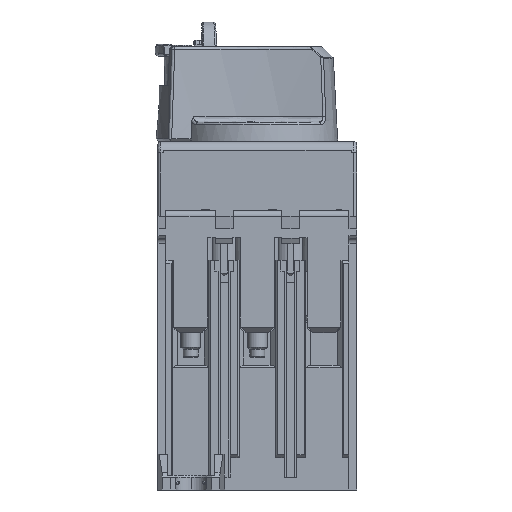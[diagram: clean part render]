
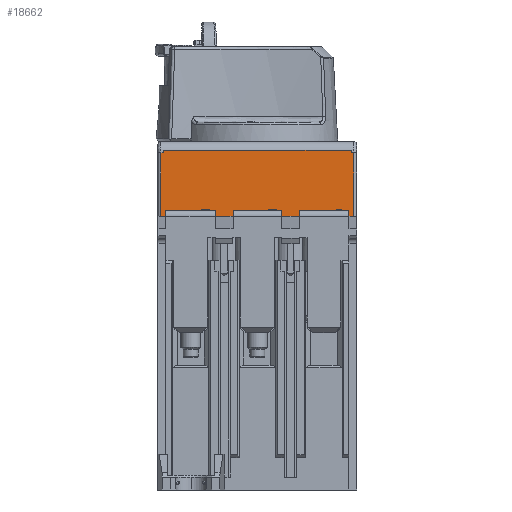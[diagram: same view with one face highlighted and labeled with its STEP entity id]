
A CAD part, left-side view. The second image highlights one B-rep face of the part: STEP entity #18662.
In plain terms, the highlighted planar face has unit normal (-1, 0, 0).
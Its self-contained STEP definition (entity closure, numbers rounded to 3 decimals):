
#840 = VECTOR ( 'NONE', #77803, 1000. ) ;
#1303 = CARTESIAN_POINT ( 'NONE',  ( -19.4, 261.429, 42.15 ) ) ;
#2594 = ORIENTED_EDGE ( 'NONE', *, *, #89539, .T. ) ;
#2887 = VERTEX_POINT ( 'NONE', #25174 ) ;
#3357 = LINE ( 'NONE', #77321, #72798 ) ;
#4456 = AXIS2_PLACEMENT_3D ( 'NONE', #12999, #74201, #51690 ) ;
#4516 = ORIENTED_EDGE ( 'NONE', *, *, #52850, .F. ) ;
#5831 = VECTOR ( 'NONE', #11500, 1000. ) ;
#5946 = CARTESIAN_POINT ( 'NONE',  ( -19.4, 269.775, 36.3 ) ) ;
#6111 = LINE ( 'NONE', #90278, #55612 ) ;
#7173 = VERTEX_POINT ( 'NONE', #92871 ) ;
#7191 = ORIENTED_EDGE ( 'NONE', *, *, #22659, .F. ) ;
#8201 = VECTOR ( 'NONE', #80288, 1000. ) ;
#8441 = DIRECTION ( 'NONE',  ( 0., 0., -1. ) ) ;
#8679 = LINE ( 'NONE', #58690, #13557 ) ;
#9398 = CARTESIAN_POINT ( 'NONE',  ( -19.4, 269.775, 37.8 ) ) ;
#10449 = VERTEX_POINT ( 'NONE', #94441 ) ;
#11500 = DIRECTION ( 'NONE',  ( 0., -1., 0. ) ) ;
#11541 = CARTESIAN_POINT ( 'NONE',  ( -19.4, 235.688, 56. ) ) ;
#11749 = VERTEX_POINT ( 'NONE', #69142 ) ;
#12820 = CARTESIAN_POINT ( 'NONE',  ( -19.4, 269.175, 43.8 ) ) ;
#12999 = CARTESIAN_POINT ( 'NONE',  ( -19.4, 235.688, 37.8 ) ) ;
#13100 = EDGE_CURVE ( 'NONE', #61467, #44654, #79415, .T. ) ;
#13552 = CARTESIAN_POINT ( 'NONE',  ( -19.4, 269.675, 42.15 ) ) ;
#13557 = VECTOR ( 'NONE', #30261, 1000. ) ;
#13968 = PLANE ( 'NONE',  #4456 ) ;
#14914 = VECTOR ( 'NONE', #23483, 1000. ) ;
#18576 = EDGE_CURVE ( 'NONE', #61101, #61467, #56111, .T. ) ;
#18662 = ADVANCED_FACE ( 'NONE', ( #65420 ), #13968, .F. ) ;
#20061 = VERTEX_POINT ( 'NONE', #30201 ) ;
#20115 = EDGE_CURVE ( 'NONE', #93538, #11749, #47285, .T. ) ;
#20542 = LINE ( 'NONE', #66582, #8201 ) ;
#22616 = EDGE_CURVE ( 'NONE', #70499, #89665, #3357, .T. ) ;
#22659 = EDGE_CURVE ( 'NONE', #70820, #2887, #56706, .T. ) ;
#23483 = DIRECTION ( 'NONE',  ( 0., -1., 0. ) ) ;
#24044 = EDGE_CURVE ( 'NONE', #86087, #42715, #8679, .T. ) ;
#25174 = CARTESIAN_POINT ( 'NONE',  ( -19.4, 269.175, 42.15 ) ) ;
#26805 = ORIENTED_EDGE ( 'NONE', *, *, #79138, .T. ) ;
#30201 = CARTESIAN_POINT ( 'NONE',  ( -19.4, 236.375, 42.15 ) ) ;
#30261 = DIRECTION ( 'NONE',  ( 0., 1., 0. ) ) ;
#30699 = CARTESIAN_POINT ( 'NONE',  ( -19.4, 270.275, 37.8 ) ) ;
#30812 = VECTOR ( 'NONE', #82625, 1000. ) ;
#30912 = VECTOR ( 'NONE', #8441, 1000. ) ;
#31285 = ORIENTED_EDGE ( 'NONE', *, *, #39760, .F. ) ;
#32056 = DIRECTION ( 'NONE',  ( 0., 0., 1. ) ) ;
#32161 = ORIENTED_EDGE ( 'NONE', *, *, #83870, .T. ) ;
#34365 = CARTESIAN_POINT ( 'NONE',  ( -19.4, 236.275, 42.15 ) ) ;
#34369 = DIRECTION ( 'NONE',  ( 0., 0., -1. ) ) ;
#35255 = CARTESIAN_POINT ( 'NONE',  ( -19.4, 269.775, 42.15 ) ) ;
#35596 = ORIENTED_EDGE ( 'NONE', *, *, #41129, .F. ) ;
#35764 = EDGE_CURVE ( 'NONE', #54108, #73118, #6111, .T. ) ;
#36271 = VECTOR ( 'NONE', #38199, 1000. ) ;
#36489 = ORIENTED_EDGE ( 'NONE', *, *, #64450, .T. ) ;
#38059 = LINE ( 'NONE', #30699, #30812 ) ;
#38199 = DIRECTION ( 'NONE',  ( 0., -1., 0. ) ) ;
#39413 = LINE ( 'NONE', #48696, #76623 ) ;
#39748 = EDGE_CURVE ( 'NONE', #10449, #7173, #55641, .T. ) ;
#39760 = EDGE_CURVE ( 'NONE', #42193, #93538, #48307, .T. ) ;
#39946 = DIRECTION ( 'NONE',  ( 0., 1., 0. ) ) ;
#40964 = CARTESIAN_POINT ( 'NONE',  ( -19.4, 235.775, 37.8 ) ) ;
#41034 = CARTESIAN_POINT ( 'NONE',  ( -19.4, 235.775, 36.3 ) ) ;
#41129 = EDGE_CURVE ( 'NONE', #7173, #61101, #39413, .T. ) ;
#42193 = VERTEX_POINT ( 'NONE', #42975 ) ;
#42715 = VERTEX_POINT ( 'NONE', #67316 ) ;
#42821 = CARTESIAN_POINT ( 'NONE',  ( -19.4, 236.875, 42.15 ) ) ;
#42975 = CARTESIAN_POINT ( 'NONE',  ( -19.4, 235.775, 55.5 ) ) ;
#44594 = LINE ( 'NONE', #88661, #36271 ) ;
#44654 = VERTEX_POINT ( 'NONE', #47048 ) ;
#46477 = LINE ( 'NONE', #90560, #14914 ) ;
#46867 = DIRECTION ( 'NONE',  ( 0., -1., 0. ) ) ;
#47048 = CARTESIAN_POINT ( 'NONE',  ( -19.4, 236.275, 55.5 ) ) ;
#47285 = LINE ( 'NONE', #62958, #87301 ) ;
#47365 = ORIENTED_EDGE ( 'NONE', *, *, #18576, .F. ) ;
#47679 = ORIENTED_EDGE ( 'NONE', *, *, #57814, .F. ) ;
#47764 = CARTESIAN_POINT ( 'NONE',  ( -19.4, 235.688, 55.5 ) ) ;
#47808 = DIRECTION ( 'NONE',  ( 0., -1., 0. ) ) ;
#48307 = LINE ( 'NONE', #40964, #73583 ) ;
#48696 = CARTESIAN_POINT ( 'NONE',  ( -19.4, 269.775, 37.8 ) ) ;
#51690 = DIRECTION ( 'NONE',  ( 0., -1., 0. ) ) ;
#52850 = EDGE_CURVE ( 'NONE', #89665, #70820, #20542, .T. ) ;
#52999 = VECTOR ( 'NONE', #46867, 1000. ) ;
#53562 = ORIENTED_EDGE ( 'NONE', *, *, #20115, .F. ) ;
#54108 = VERTEX_POINT ( 'NONE', #35255 ) ;
#55100 = LINE ( 'NONE', #47764, #5831 ) ;
#55612 = VECTOR ( 'NONE', #95728, 1000. ) ;
#55641 = LINE ( 'NONE', #85524, #52999 ) ;
#56065 = VERTEX_POINT ( 'NONE', #34365 ) ;
#56111 = LINE ( 'NONE', #11541, #93587 ) ;
#56538 = ORIENTED_EDGE ( 'NONE', *, *, #68313, .F. ) ;
#56706 = LINE ( 'NONE', #70952, #840 ) ;
#56797 = ORIENTED_EDGE ( 'NONE', *, *, #83227, .F. ) ;
#57450 = LINE ( 'NONE', #63360, #77799 ) ;
#57814 = EDGE_CURVE ( 'NONE', #44654, #42193, #55100, .T. ) ;
#58690 = CARTESIAN_POINT ( 'NONE',  ( -19.4, 235.688, 36.3 ) ) ;
#58923 = CARTESIAN_POINT ( 'NONE',  ( -19.4, 236.275, 56. ) ) ;
#61101 = VERTEX_POINT ( 'NONE', #88405 ) ;
#61467 = VERTEX_POINT ( 'NONE', #58923 ) ;
#61956 = EDGE_LOOP ( 'NONE', ( #66517, #2594, #36489, #32161, #53562, #31285, #47679, #83422, #47365, #35596, #77514, #56797, #72087, #56538, #64174, #26805, #7191, #4516 ) ) ;
#62958 = CARTESIAN_POINT ( 'NONE',  ( -19.4, 235.688, 36.3 ) ) ;
#63360 = CARTESIAN_POINT ( 'NONE',  ( -19.4, 236.275, 40.3 ) ) ;
#64174 = ORIENTED_EDGE ( 'NONE', *, *, #35764, .T. ) ;
#64450 = EDGE_CURVE ( 'NONE', #20061, #56065, #46477, .T. ) ;
#65420 = FACE_OUTER_BOUND ( 'NONE', #61956, .T. ) ;
#66517 = ORIENTED_EDGE ( 'NONE', *, *, #22616, .F. ) ;
#66582 = CARTESIAN_POINT ( 'NONE',  ( -19.4, 235.688, 43.8 ) ) ;
#67316 = CARTESIAN_POINT ( 'NONE',  ( -19.4, 270.275, 36.3 ) ) ;
#68313 = EDGE_CURVE ( 'NONE', #54108, #86087, #91664, .T. ) ;
#68892 = DIRECTION ( 'NONE',  ( 0., -1., 0. ) ) ;
#69142 = CARTESIAN_POINT ( 'NONE',  ( -19.4, 236.275, 36.3 ) ) ;
#70004 = CARTESIAN_POINT ( 'NONE',  ( -19.4, 236.875, 43.8 ) ) ;
#70499 = VERTEX_POINT ( 'NONE', #42821 ) ;
#70820 = VERTEX_POINT ( 'NONE', #12820 ) ;
#70853 = DIRECTION ( 'NONE',  ( 0., 0., -1. ) ) ;
#70952 = CARTESIAN_POINT ( 'NONE',  ( -19.4, 269.175, 37.8 ) ) ;
#72087 = ORIENTED_EDGE ( 'NONE', *, *, #24044, .F. ) ;
#72583 = CARTESIAN_POINT ( 'NONE',  ( -19.4, 236.275, 37.8 ) ) ;
#72798 = VECTOR ( 'NONE', #92479, 1000. ) ;
#73118 = VERTEX_POINT ( 'NONE', #13552 ) ;
#73583 = VECTOR ( 'NONE', #70853, 1000. ) ;
#74201 = DIRECTION ( 'NONE',  ( 1., 0., 0. ) ) ;
#74791 = LINE ( 'NONE', #1303, #88357 ) ;
#76623 = VECTOR ( 'NONE', #32056, 1000. ) ;
#77321 = CARTESIAN_POINT ( 'NONE',  ( -19.4, 236.875, 37.8 ) ) ;
#77514 = ORIENTED_EDGE ( 'NONE', *, *, #39748, .F. ) ;
#77799 = VECTOR ( 'NONE', #86838, 1000. ) ;
#77803 = DIRECTION ( 'NONE',  ( 0., 0., -1. ) ) ;
#77883 = VECTOR ( 'NONE', #34369, 1000. ) ;
#79138 = EDGE_CURVE ( 'NONE', #73118, #2887, #74791, .T. ) ;
#79415 = LINE ( 'NONE', #72583, #77883 ) ;
#80288 = DIRECTION ( 'NONE',  ( 0., 1., 0. ) ) ;
#82625 = DIRECTION ( 'NONE',  ( 0., 0., 1. ) ) ;
#83227 = EDGE_CURVE ( 'NONE', #42715, #10449, #38059, .T. ) ;
#83422 = ORIENTED_EDGE ( 'NONE', *, *, #13100, .F. ) ;
#83870 = EDGE_CURVE ( 'NONE', #56065, #11749, #57450, .T. ) ;
#85524 = CARTESIAN_POINT ( 'NONE',  ( -19.4, 235.688, 55.5 ) ) ;
#86087 = VERTEX_POINT ( 'NONE', #5946 ) ;
#86838 = DIRECTION ( 'NONE',  ( 0., 0., -1. ) ) ;
#87301 = VECTOR ( 'NONE', #39946, 1000. ) ;
#88357 = VECTOR ( 'NONE', #68892, 1000. ) ;
#88405 = CARTESIAN_POINT ( 'NONE',  ( -19.4, 269.775, 56. ) ) ;
#88661 = CARTESIAN_POINT ( 'NONE',  ( -19.4, 261.429, 42.15 ) ) ;
#89539 = EDGE_CURVE ( 'NONE', #70499, #20061, #44594, .T. ) ;
#89665 = VERTEX_POINT ( 'NONE', #70004 ) ;
#90278 = CARTESIAN_POINT ( 'NONE',  ( -19.4, 261.429, 42.15 ) ) ;
#90560 = CARTESIAN_POINT ( 'NONE',  ( -19.4, 261.429, 42.15 ) ) ;
#91664 = LINE ( 'NONE', #9398, #30912 ) ;
#92479 = DIRECTION ( 'NONE',  ( 0., 0., 1. ) ) ;
#92871 = CARTESIAN_POINT ( 'NONE',  ( -19.4, 269.775, 55.5 ) ) ;
#93538 = VERTEX_POINT ( 'NONE', #41034 ) ;
#93587 = VECTOR ( 'NONE', #47808, 1000. ) ;
#94441 = CARTESIAN_POINT ( 'NONE',  ( -19.4, 270.275, 55.5 ) ) ;
#95728 = DIRECTION ( 'NONE',  ( 0., -1., 0. ) ) ;
